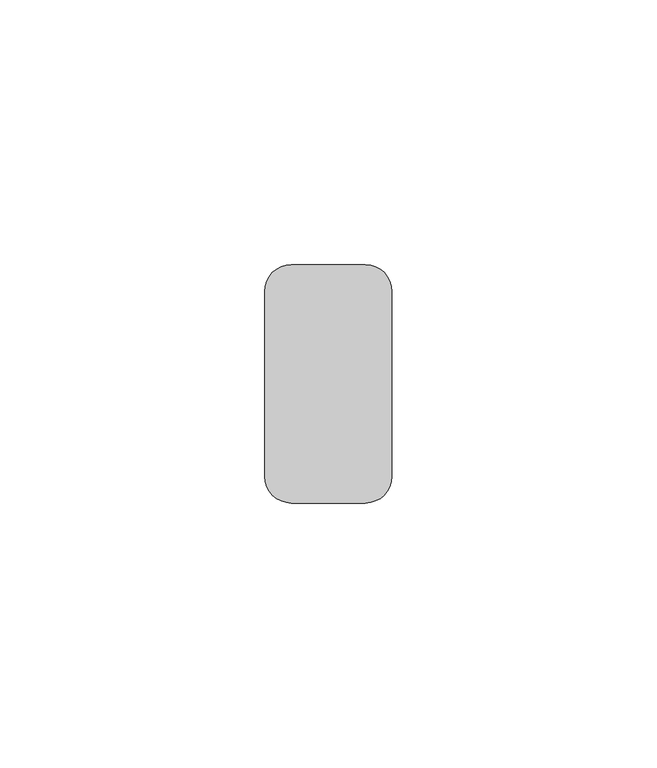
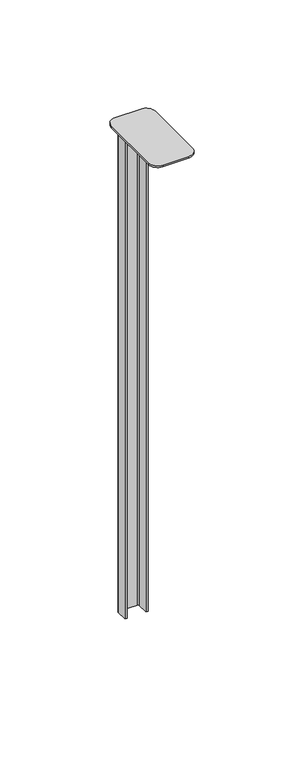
"""IFC4 building model written with IfcOpenShell, lengths in millimetres: proxy geometry, durlum_U1300 : durlum_U1300."""

import ifcopenshell
import ifcopenshell.guid

model = None  # the IFC model being written
_history = None  # IfcOwnerHistory: only IFC2X3 demands one
_inside = {}  # id of a spatial element -> (the spatial element, [elements in it])
_under = {}  # id of a project, library or spatial element -> (it, [spatial elements below it])
_declared = {}  # id of a project -> (the project, [libraries it declares])
_typed = {}  # id of a type object -> (the type object, [elements of that type])
_made_of = {}  # id of a material, layer set ... -> (it, [elements and type objects made of it])


def new_model(schema):
    """Start an empty IFC model of exactly this schema.

    Asked for "IFC4X3", IfcOpenShell would pick the latest addendum, in which some entities
    have other attributes; the version numbers below select the first issue.
    IFC2X3 requires an IfcOwnerHistory on every rooted entity: one is made here for all.
    """
    global model, _history
    if schema == "IFC4X3":
        model = ifcopenshell.file(schema_version=(4, 3, 0, 0))
    else:
        model = ifcopenshell.file(schema=schema)
    _inside.clear()
    _under.clear()
    _declared.clear()
    _typed.clear()
    _made_of.clear()
    _history = None
    if model.schema == "IFC2X3":
        org = make("IfcOrganization", Name="unknown")
        user = make(
            "IfcPersonAndOrganization",
            ThePerson=make("IfcPerson", FamilyName="unknown"),
            TheOrganization=org,
        )
        app = make(
            "IfcApplication",
            ApplicationDeveloper=org,
            Version="unknown",
            ApplicationFullName="unknown",
            ApplicationIdentifier="unknown",
        )
        _history = make(
            "IfcOwnerHistory",
            OwningUser=user,
            OwningApplication=app,
            ChangeAction="ADDED",
            CreationDate=0,
        )
    return model


def make(cls, **values):
    """One entity of the class cls with the attributes given. An attribute that is None is left unset."""
    return model.create_entity(
        cls, **{name: value for name, value in values.items() if value is not None}
    )


def rooted(cls, **values):
    """An entity with a GlobalId (a new one), such as an element, a storey or a relation."""
    return make(cls, GlobalId=ifcopenshell.guid.new(), OwnerHistory=_history, **values)


def si_unit(unit_type, name, prefix=None):
    """IfcSIUnit, for example si_unit("LENGTHUNIT", "METRE", prefix="MILLI")."""
    return make("IfcSIUnit", UnitType=unit_type, Prefix=prefix, Name=name)


def assignment(units):
    """IfcUnitAssignment: the units of a project."""
    return None if units is None else make("IfcUnitAssignment", Units=units)


def point(xyz):
    """IfcCartesianPoint."""
    return None if xyz is None else make("IfcCartesianPoint", Coordinates=xyz)


def direction(xyz):
    """IfcDirection."""
    return None if xyz is None else make("IfcDirection", DirectionRatios=xyz)


def frame(location, z_axis=None, x_axis=None):
    """IfcAxis2Placement3D, a coordinate frame: its origin and axes. An axis left out is left unset."""
    return make(
        "IfcAxis2Placement3D",
        Location=point(location),
        Axis=direction(z_axis),
        RefDirection=direction(x_axis),
    )


def frame_2d(location, x_axis=None):
    """IfcAxis2Placement2D, a coordinate frame in the plane: its origin and x axis."""
    return make(
        "IfcAxis2Placement2D", Location=point(location), RefDirection=direction(x_axis)
    )


def origin():
    """The frame at (0, 0, 0) with its axes left unset."""
    return frame((0.0, 0.0, 0.0))


def place(relative_to, where):
    """IfcLocalPlacement: puts the frame where relative to a parent placement (None: the world)."""
    return make(
        "IfcLocalPlacement", PlacementRelTo=relative_to, RelativePlacement=where
    )


def context(
    kind, dimensions, precision=None, world=None, true_north=None, identifier=None
):
    """IfcGeometricRepresentationContext, for example the 3D "Model" context."""
    return make(
        "IfcGeometricRepresentationContext",
        ContextIdentifier=identifier,
        ContextType=kind,
        CoordinateSpaceDimension=dimensions,
        Precision=precision,
        WorldCoordinateSystem=world,
        TrueNorth=true_north,
    )


def project(units=None, contexts=None):
    """IfcProject with its units and contexts."""
    return rooted(
        "IfcProject",
        Name="project",
        RepresentationContexts=contexts,
        UnitsInContext=assignment(units),
    )


def spatial(cls, under=None, at=None, **own):
    """A site, building, storey or space (cls), placed at a placement, below another one or the project."""
    s = rooted(cls, ObjectPlacement=at, **own)
    if under is not None:
        _under.setdefault(under.id(), (under, []))[1].append(s)
    return s


def polyline(points):
    """IfcPolyline through the points."""
    return make("IfcPolyline", Points=[point(p) for p in points])


def circle_curve(where, radius):
    """IfcCircle in the frame where."""
    return make("IfcCircle", Position=where, Radius=radius)


def trimmed(basis, trim1, trim2, sense, master):
    """IfcTrimmedCurve: the piece of a basis curve between two trims."""
    return make(
        "IfcTrimmedCurve",
        BasisCurve=basis,
        Trim1=trim1,
        Trim2=trim2,
        SenseAgreement=sense,
        MasterRepresentation=master,
    )


def segment(curve, same_sense, transition):
    """IfcCompositeCurveSegment."""
    return make(
        "IfcCompositeCurveSegment",
        Transition=transition,
        SameSense=same_sense,
        ParentCurve=curve,
    )


def composite_curve(segments, self_intersect=None):
    """IfcCompositeCurve: segments joined end to end."""
    return make("IfcCompositeCurve", Segments=segments, SelfIntersect=self_intersect)


def outline(outer, holes=None, kind="AREA"):
    """IfcArbitraryClosedProfileDef: a profile drawn as a closed curve; with holes, ...WithVoids."""
    if holes is None:
        return make("IfcArbitraryClosedProfileDef", ProfileType=kind, OuterCurve=outer)
    return make(
        "IfcArbitraryProfileDefWithVoids",
        ProfileType=kind,
        OuterCurve=outer,
        InnerCurves=holes,
    )


def extrude(swept, where, along, depth):
    """IfcExtrudedAreaSolid: the profile swept, set in the frame where, extruded along a direction by depth."""
    return make(
        "IfcExtrudedAreaSolid",
        SweptArea=swept,
        Position=where,
        ExtrudedDirection=direction(along),
        Depth=depth,
    )


def shape(context_of_items, identifier, shape_type, items):
    """IfcShapeRepresentation: the items that make up one representation, for example the "Body"."""
    return make(
        "IfcShapeRepresentation",
        ContextOfItems=context_of_items,
        RepresentationIdentifier=identifier,
        RepresentationType=shape_type,
        Items=items,
    )


def source(mapping_origin, context_of_items, identifier, shape_type, items):
    """IfcRepresentationMap: a shape defined once, which mapped items show again and again."""
    return make(
        "IfcRepresentationMap",
        MappingOrigin=mapping_origin,
        MappedRepresentation=shape(context_of_items, identifier, shape_type, items),
    )


def transform(
    local_origin,
    x_axis=None,
    y_axis=None,
    z_axis=None,
    scale=None,
    scale2=None,
    scale3=None,
    uniform=True,
):
    """IfcCartesianTransformationOperator3D, or its non-uniform kind. x_axis, y_axis, z_axis: its Axis1, 2, 3."""
    if uniform:
        return make(
            "IfcCartesianTransformationOperator3D",
            Axis1=direction(x_axis),
            Axis2=direction(y_axis),
            LocalOrigin=point(local_origin),
            Scale=scale,
            Axis3=direction(z_axis),
        )
    return make(
        "IfcCartesianTransformationOperator3DnonUniform",
        Axis1=direction(x_axis),
        Axis2=direction(y_axis),
        LocalOrigin=point(local_origin),
        Scale=scale,
        Axis3=direction(z_axis),
        Scale2=scale2,
        Scale3=scale3,
    )


def mapped(mapping_source, mapping_target):
    """IfcMappedItem: shows the shape of a source again, moved by a transform."""
    return make(
        "IfcMappedItem", MappingSource=mapping_source, MappingTarget=mapping_target
    )


def made_of(thing, what):
    """Note that an element or type object is made of a material, layer set ...; save() writes the relation."""
    if what is not None:
        _made_of.setdefault(what.id(), (what, []))[1].append(thing)
    return thing


def element(
    cls,
    number,
    at=None,
    inside=None,
    cuts=None,
    type_object=None,
    material=None,
    context=None,
    identifier="Body",
    shape_type=None,
    held_by="IfcProductDefinitionShape",
    body=None,
    shapes=None,
    **own,
):
    """One element of the class cls, such as IfcWall. Its Tag is "e" and its number.

    at: its placement. inside: the storey or other place that contains it. cuts: it is an
    opening in that element (IfcRelVoidsElement). A single representation is given by context,
    identifier, shape_type and body (its items); several are given by shapes. held_by: the class
    of the entity that holds the representations. save() writes the other relations.
    """
    e = rooted(cls, Tag="e%d" % number, ObjectPlacement=at, **own)
    if body is not None:
        shapes = [shape(context, identifier, shape_type, body)]
    if shapes is not None:
        e.Representation = make(held_by, Representations=shapes)
    if inside is not None:
        _inside.setdefault(inside.id(), (inside, []))[1].append(e)
    if cuts is not None:
        rooted(
            "IfcRelVoidsElement", RelatingBuildingElement=cuts, RelatedOpeningElement=e
        )
    if type_object is not None:
        _typed.setdefault(type_object.id(), (type_object, []))[1].append(e)
    return made_of(e, material)


def aggregate(whole, parts):
    """IfcRelAggregates: a whole, such as a stair, and the parts it consists of."""
    return rooted("IfcRelAggregates", RelatingObject=whole, RelatedObjects=parts)


def save(model, path):
    """Write the relations noted so far, then the file.

    IfcRelAggregates (storeys below a building ...), IfcRelContainedInSpatialStructure (elements
    in a storey), IfcRelDefinesByType, IfcRelAssociatesMaterial and IfcRelDeclares: one each for
    every whole, place, type object, material and project.
    """
    for whole, parts in _under.values():
        aggregate(whole, parts)
    for where, things in _inside.values():
        rooted(
            "IfcRelContainedInSpatialStructure",
            RelatedElements=things,
            RelatingStructure=where,
        )
    for kind, things in _typed.values():
        rooted("IfcRelDefinesByType", RelatedObjects=things, RelatingType=kind)
    for what, things in _made_of.values():
        rooted("IfcRelAssociatesMaterial", RelatedObjects=things, RelatingMaterial=what)
    for by, libraries in _declared.values():
        rooted("IfcRelDeclares", RelatingContext=by, RelatedDefinitions=libraries)
    model.write(path)


def generic_models_f6474ad0(model_context):
    return source(origin(), model_context, "Body", "SweptSolid", [
        extrude(outline(composite_curve([segment(trimmed(circle_curve(frame_2d((7.0, -5.0)), 5.0), [point((7.0, 0.0))], [point((12.0, -5.0))], False, "CARTESIAN"), True, "CONTINUOUS"), segment(polyline([(12.0, -5.0), (12.0, -40.0)]), True, "CONTINUOUS"), segment(trimmed(circle_curve(frame_2d((7.0, -40.0)), 5.0), [point((12.0, -40.0))], [point((7.0, -45.0))], False, "CARTESIAN"), True, "CONTINUOUS"), segment(polyline([(7.0, -45.0), (-7.0, -45.0)]), True, "CONTINUOUS"), segment(trimmed(circle_curve(frame_2d((-7.0, -40.0)), 5.0), [point((-7.0, -45.0))], [point((-12.0, -40.0))], False, "CARTESIAN"), True, "CONTINUOUS"), segment(polyline([(-12.0, -40.0), (-12.0, -5.0)]), True, "CONTINUOUS"), segment(trimmed(circle_curve(frame_2d((-7.0, -5.0)), 5.0), [point((-12.0, -5.0))], [point((-7.0, 0.0))], False, "CARTESIAN"), True, "CONTINUOUS"), segment(polyline([(-7.0, 0.0), (7.0, 0.0)]), True, "CONTINUOUS")], self_intersect=False)), frame((0.0, 0.0, 999.5875318), z_axis=(0.0, 0.0, 1.0), x_axis=(1.0, 0.0, 0.0)), (0.0, 0.0, 1.0), 1.0),
        extrude(outline(composite_curve([segment(trimmed(circle_curve(frame_2d((-4.25, -2.0)), 2.0), [point((-6.25, -2.0))], [point((-4.25, 0.0))], False, "CARTESIAN"), True, "CONTINUOUS"), segment(polyline([(-4.25, 0.0), (4.25, 0.0)]), True, "CONTINUOUS"), segment(trimmed(circle_curve(frame_2d((4.25, -2.0)), 2.0), [point((4.25, 0.0))], [point((6.25, -2.0))], False, "CARTESIAN"), True, "CONTINUOUS"), segment(polyline([(6.25, -2.0), (6.25, -8.0), (5.25, -8.0), (5.25, -2.0)]), True, "CONTINUOUS"), segment(trimmed(circle_curve(frame_2d((4.25, -2.0)), 1.0), [point((5.25, -2.0))], [point((4.25, -1.0))], True, "CARTESIAN"), True, "CONTINUOUS"), segment(polyline([(4.25, -1.0), (-4.25, -1.0)]), True, "CONTINUOUS"), segment(trimmed(circle_curve(frame_2d((-4.25, -2.0)), 1.0), [point((-4.25, -1.0))], [point((-5.25, -2.0))], True, "CARTESIAN"), True, "CONTINUOUS"), segment(polyline([(-5.25, -2.0), (-5.25, -8.0), (-6.25, -8.0), (-6.25, -2.0)]), True, "CONTINUOUS")], self_intersect=False)), frame((0.0, 0.0, 716.5875318), z_axis=(0.0, 0.0, 1.0), x_axis=(1.0, 0.0, 0.0)), (0.0, 0.0, 1.0), 283.0),
    ])


if __name__ == "__main__":
    model = new_model("IFC4")
    model_context = context("Model", 3, world=origin())
    ifc_project = project(units=[si_unit("LENGTHUNIT", "METRE", prefix="MILLI")], contexts=[model_context])
    site = spatial("IfcSite", under=ifc_project)
    building = spatial("IfcBuilding", under=site)
    placement = place(None, origin())
    generic_models_shape = generic_models_f6474ad0(model_context)
    element("IfcBuildingElementProxy", 1, Name="durlum_U1300 : durlum_U1300", ObjectType="durlum_U1300 : durlum_U1300", at=placement, inside=building, context=model_context, shape_type="MappedRepresentation", body=[
        mapped(generic_models_shape, transform((0.0, 0.0, 0.0), x_axis=(1.0, 0.0, 0.0), y_axis=(0.0, 1.0, 0.0), z_axis=(0.0, 0.0, 1.0))),
    ])
    save(model, "model.ifc")
